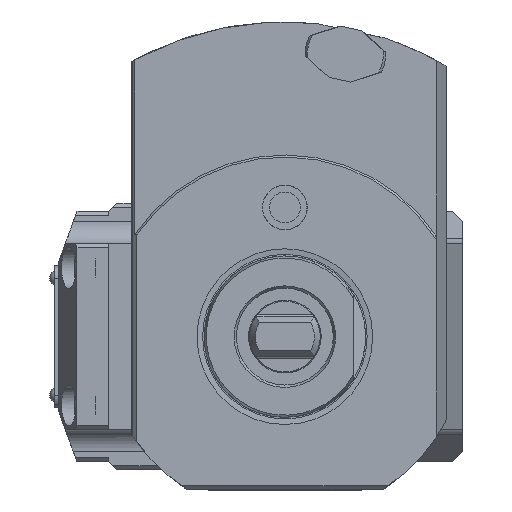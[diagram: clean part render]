
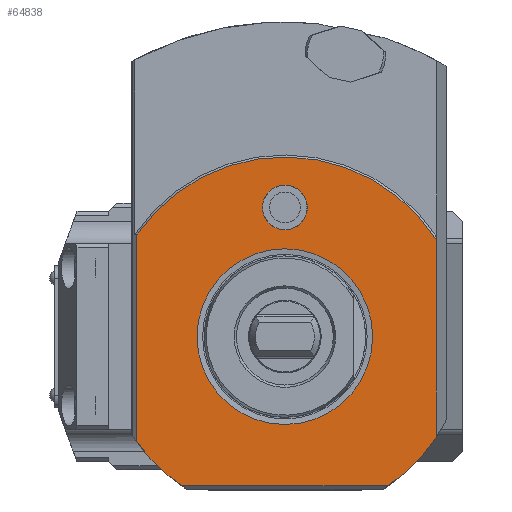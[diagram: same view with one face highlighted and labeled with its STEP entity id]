
A CAD part, left-side view. The second image highlights one B-rep face of the part: STEP entity #64838.
In plain terms, the highlighted planar face has unit normal (-1, 0, 0).
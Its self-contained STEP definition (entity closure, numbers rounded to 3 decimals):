
#26817=CIRCLE('',#62585,45.);
#26819=CIRCLE('',#62589,45.);
#26820=CIRCLE('',#62590,44.5);
#26821=CIRCLE('',#62591,5.55);
#26822=CIRCLE('',#62592,21.765);
#28125=ORIENTED_EDGE('',*,*,#36657,.F.);
#28126=ORIENTED_EDGE('',*,*,#36662,.F.);
#28127=ORIENTED_EDGE('',*,*,#36666,.F.);
#28128=ORIENTED_EDGE('',*,*,#36667,.F.);
#28129=ORIENTED_EDGE('',*,*,#36668,.F.);
#28130=ORIENTED_EDGE('',*,*,#36669,.T.);
#28131=ORIENTED_EDGE('',*,*,#36670,.T.);
#28132=ORIENTED_EDGE('',*,*,#36671,.F.);
#32456=VECTOR('',#41694,1.);
#32460=VECTOR('',#41716,1.);
#32461=VECTOR('',#41719,1.);
#33734=LINE('',#48301,#32456);
#33738=LINE('',#48319,#32460);
#33739=LINE('',#48323,#32461);
#35007=VERTEX_POINT('',#48298);
#35008=VERTEX_POINT('',#48300);
#35010=VERTEX_POINT('',#48310);
#35013=VERTEX_POINT('',#48318);
#35014=VERTEX_POINT('',#48320);
#35015=VERTEX_POINT('',#48322);
#35016=VERTEX_POINT('',#48325);
#35017=VERTEX_POINT('',#48327);
#36657=EDGE_CURVE('',#35007,#35008,#33734,.T.);
#36662=EDGE_CURVE('',#35010,#35007,#26817,.T.);
#36666=EDGE_CURVE('',#35013,#35010,#33738,.T.);
#36667=EDGE_CURVE('',#35014,#35013,#26819,.T.);
#36668=EDGE_CURVE('',#35015,#35014,#33739,.T.);
#36669=EDGE_CURVE('',#35015,#35008,#26820,.T.);
#36670=EDGE_CURVE('',#35016,#35016,#26821,.T.);
#36671=EDGE_CURVE('',#35017,#35017,#26822,.T.);
#38755=EDGE_LOOP('',(#28125,#28126,#28127,#28128,#28129,#28130));
#38756=EDGE_LOOP('',(#28131));
#38757=EDGE_LOOP('',(#28132));
#40047=FACE_BOUND('',#38755,.T.);
#40048=FACE_BOUND('',#38756,.T.);
#40049=FACE_BOUND('',#38757,.T.);
#41694=DIRECTION('',(0.,0.,51.207));
#41707=DIRECTION('',(1.,0.,0.));
#41708=DIRECTION('',(0.,24.104,-38.));
#41714=DIRECTION('',(-1.,0.,0.));
#41715=DIRECTION('',(0.,1.,0.));
#41716=DIRECTION('',(0.,51.225,0.));
#41717=DIRECTION('',(1.,0.,0.));
#41718=DIRECTION('',(0.,-37.5,-24.875));
#41719=DIRECTION('',(0.,0.,-48.833));
#41720=DIRECTION('',(-1.,0.,0.));
#41721=DIRECTION('',(0.,-0.699,44.495));
#41722=DIRECTION('',(1.,0.,0.));
#41723=DIRECTION('',(0.,-5.55,0.));
#41724=DIRECTION('',(-1.,0.,0.));
#41725=DIRECTION('',(0.,21.765,0.));
#48298=CARTESIAN_POINT('',(0.,36.7,-26.041));
#48300=CARTESIAN_POINT('',(0.,36.7,25.167));
#48301=CARTESIAN_POINT('',(0.,36.7,-26.041));
#48310=CARTESIAN_POINT('',(0.,25.612,-37.));
#48311=CARTESIAN_POINT('',(0.,0.,0.));
#48317=CARTESIAN_POINT('',(0.,-37.5,24.875));
#48318=CARTESIAN_POINT('',(0.,-25.612,-37.));
#48319=CARTESIAN_POINT('',(0.,-25.612,-37.));
#48320=CARTESIAN_POINT('',(0.,-37.5,-24.875));
#48321=CARTESIAN_POINT('',(0.,0.,0.));
#48322=CARTESIAN_POINT('',(0.,-37.5,23.958));
#48323=CARTESIAN_POINT('',(0.,-37.5,23.958));
#48324=CARTESIAN_POINT('',(0.,0.,0.));
#48325=CARTESIAN_POINT('',(0.,-5.55,32.));
#48326=CARTESIAN_POINT('',(0.,0.,32.));
#48327=CARTESIAN_POINT('',(0.,21.765,0.));
#48328=CARTESIAN_POINT('',(0.,0.,0.));
#62585=AXIS2_PLACEMENT_3D('',#48311,#41707,#41708);
#62588=AXIS2_PLACEMENT_3D('',#48317,#41714,#41715);
#62589=AXIS2_PLACEMENT_3D('',#48321,#41717,#41718);
#62590=AXIS2_PLACEMENT_3D('',#48324,#41720,#41721);
#62591=AXIS2_PLACEMENT_3D('',#48326,#41722,#41723);
#62592=AXIS2_PLACEMENT_3D('',#48328,#41724,#41725);
#64194=PLANE('',#62588);
#64838=ADVANCED_FACE('',(#40047,#40048,#40049),#64194,.T.);
